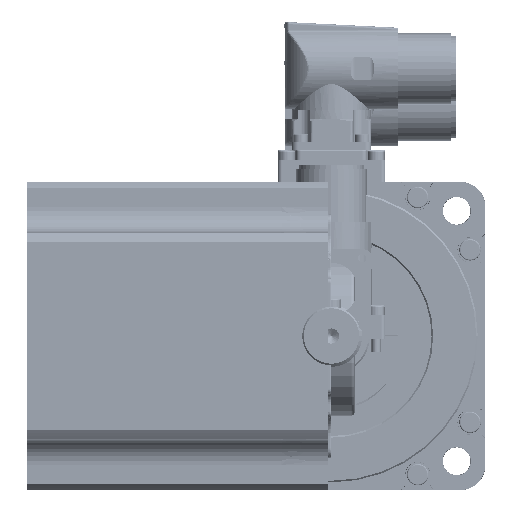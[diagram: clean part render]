
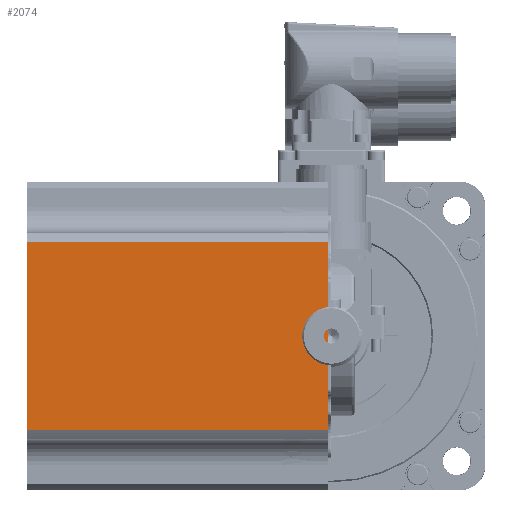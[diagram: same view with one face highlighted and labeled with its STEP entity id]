
A CAD part, front view. The second image highlights one B-rep face of the part: STEP entity #2074.
In plain terms, the highlighted planar face has unit normal (0, -1, 0).
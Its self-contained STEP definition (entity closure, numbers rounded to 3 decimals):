
#2074 = ADVANCED_FACE( '', ( #5501 ), #5502, .T. );
#5501 = FACE_OUTER_BOUND( '', #11024, .T. );
#5502 = PLANE( '', #11025 );
#11024 = EDGE_LOOP( '', ( #20504, #20505, #20506, #20507 ) );
#11025 = AXIS2_PLACEMENT_3D( '', #20508, #20509, #20510 );
#20504 = ORIENTED_EDGE( '', *, *, #33825, .F. );
#20505 = ORIENTED_EDGE( '', *, *, #33826, .T. );
#20506 = ORIENTED_EDGE( '', *, *, #33827, .F. );
#20507 = ORIENTED_EDGE( '', *, *, #33828, .T. );
#20508 = CARTESIAN_POINT( '', ( -200., -50., 50. ) );
#20509 = DIRECTION( '', ( 0., -1., 0. ) );
#20510 = DIRECTION( '', ( 0., 0., -1. ) );
#33825 = EDGE_CURVE( '', #41198, #41199, #41200, .T. );
#33826 = EDGE_CURVE( '', #41198, #41201, #41202, .T. );
#33827 = EDGE_CURVE( '', #41203, #41201, #41204, .F. );
#33828 = EDGE_CURVE( '', #41203, #41199, #41205, .T. );
#41198 = VERTEX_POINT( '', #52887 );
#41199 = VERTEX_POINT( '', #52888 );
#41200 = LINE( '', #52889, #52890 );
#41201 = VERTEX_POINT( '', #52891 );
#41202 = LINE( '', #52892, #52893 );
#41203 = VERTEX_POINT( '', #52894 );
#41204 = LINE( '', #52895, #52896 );
#41205 = LINE( '', #52897, #52898 );
#52887 = CARTESIAN_POINT( '', ( -1., -50., -30.369 ) );
#52888 = CARTESIAN_POINT( '', ( -99., -50., -30.369 ) );
#52889 = CARTESIAN_POINT( '', ( -60., -50., -30.369 ) );
#52890 = VECTOR( '', #67500, 1000. );
#52891 = CARTESIAN_POINT( '', ( -1., -50., 30.369 ) );
#52892 = CARTESIAN_POINT( '', ( -1., -50., 50. ) );
#52893 = VECTOR( '', #67501, 1000. );
#52894 = CARTESIAN_POINT( '', ( -99., -50., 30.369 ) );
#52895 = CARTESIAN_POINT( '', ( -60., -50., 30.369 ) );
#52896 = VECTOR( '', #67502, 1000. );
#52897 = CARTESIAN_POINT( '', ( -99., -50., 50. ) );
#52898 = VECTOR( '', #67503, 1000. );
#67500 = DIRECTION( '', ( -1., 0., 0. ) );
#67501 = DIRECTION( '', ( 0., 0., 1. ) );
#67502 = DIRECTION( '', ( -1., 0., 0. ) );
#67503 = DIRECTION( '', ( 0., 0., -1. ) );
